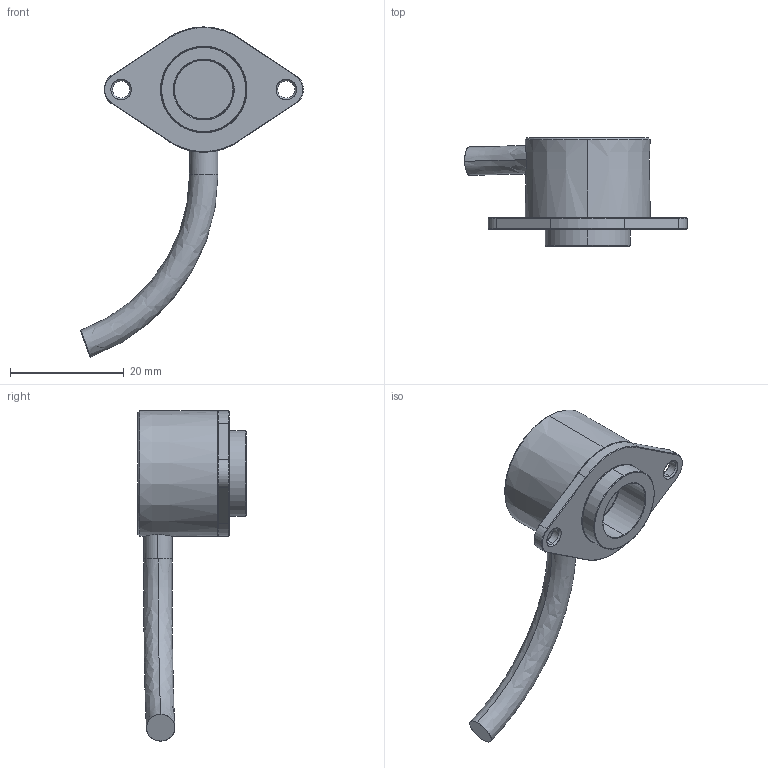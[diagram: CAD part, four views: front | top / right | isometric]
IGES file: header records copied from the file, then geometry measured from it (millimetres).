
Start section: SolidWorks IGES file using analytic representation for surfaces
Global section: file name: D:\CERAR\1\RM22-3D.IGS; native system: SolidWorks 2016; preprocessor: SolidWorks 2016; author: cerar; date: 170517.151321; units: millimetre
Bounding box: 39.11 x 19 x 58 mm (x, y, z)
Surface area: 3201.1 mm2 (no closed solid volume)
Topology: 0 solids, 0 shells, 68 faces, 802 edges, 802 vertices
Faces by surface type: revolution 43, bspline 25
